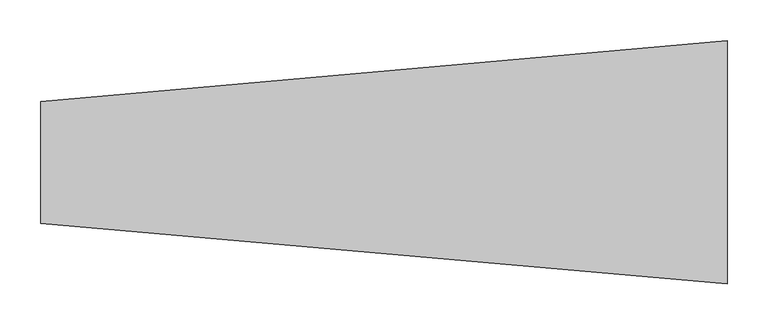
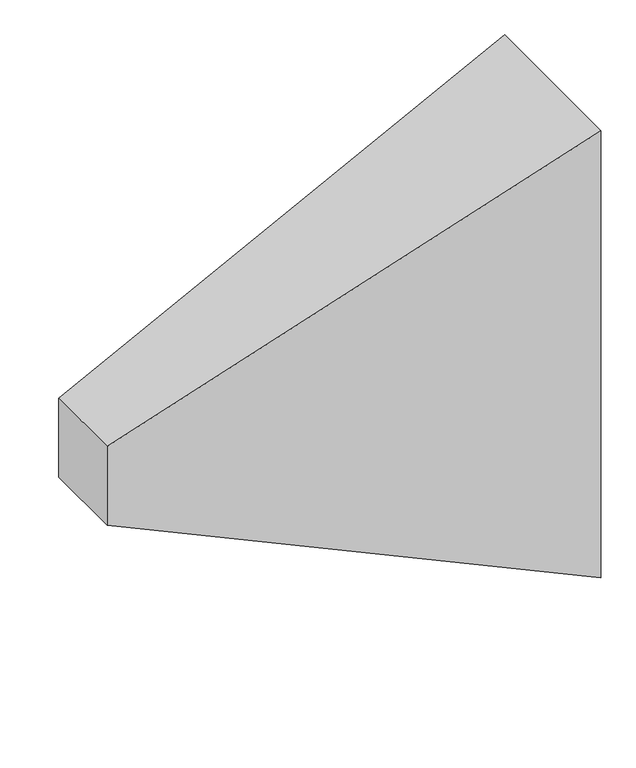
"""IFC4 building model written with IfcOpenShell, lengths in millimetres: duct fitting geometry, M_Transición rectangular - Ángulo : APT_45 graus."""

from ifc_helpers import new_model, si_unit, origin, place, context, project, spatial, faceted_brep, source, transform, mapped, element, save


def duct_fitting_ae5bc20a(model_context):
    return source(origin(), model_context, "Body", "Brep", [
        faceted_brep([(844.9747468, -150.0, 425.0), (844.9747468, -150.0, -425.0), (844.9747468, 150.0, -425.0), (844.9747468, 150.0, 425.0), (0.0, -75.0, 75.0), (0.0, 75.0, 75.0), (0.0, 75.0, -75.0), (0.0, -75.0, -75.0)], [[[0, 1, 2, 3]], [[4, 5, 6, 7]], [[4, 7, 1, 0]], [[7, 6, 2, 1]], [[6, 5, 3, 2]], [[5, 4, 0, 3]]]),
    ])


if __name__ == "__main__":
    model = new_model("IFC4")
    model_context = context("Model", 3, world=origin())
    ifc_project = project(units=[si_unit("LENGTHUNIT", "METRE", prefix="MILLI")], contexts=[model_context])
    site = spatial("IfcSite", under=ifc_project)
    building = spatial("IfcBuilding", under=site)
    placement = place(None, origin())
    duct_fitting_shape = duct_fitting_ae5bc20a(model_context)
    element("IfcDuctFitting", 1, ObjectType="M_Transición rectangular - Ángulo : APT_45 graus", at=placement, inside=building, context=model_context, shape_type="MappedRepresentation", body=[
        mapped(duct_fitting_shape, transform((0.0, 0.0, 0.0), x_axis=(1.0, 0.0, 0.0), y_axis=(0.0, 1.0, 0.0), z_axis=(0.0, 0.0, 1.0))),
    ])
    save(model, "model.ifc")
